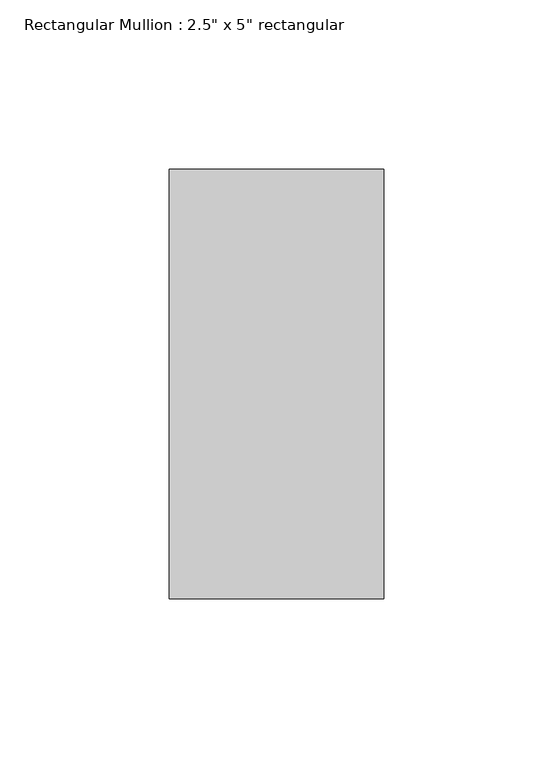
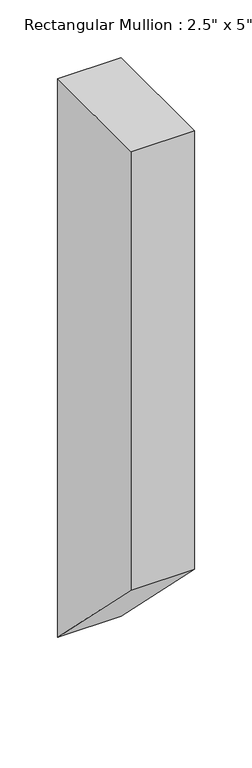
"""IFC4 building model written with IfcOpenShell, lengths in millimetres: member geometry."""

from ifc_helpers import new_model, si_unit, frame, origin, place, context, project, spatial, polyline, outline, extrude, source, transform, mapped, element, save


def member_55448455(model_context):
    return source(origin(), model_context, "Body", "SweptSolid", [
        extrude(outline(polyline([(-63.5, 0.0), (63.5, 0.0), (63.5, -590.55), (-63.5, -463.55), (-63.5, 0.0)])), frame((-63.5, 0.0, 0.0), z_axis=(1.0, 0.0, 0.0), x_axis=(0.0, 1.0, 0.0)), (0.0, 0.0, 1.0), 63.5),
    ])


if __name__ == "__main__":
    model = new_model("IFC4")
    model_context = context("Model", 3, world=origin())
    ifc_project = project(units=[si_unit("LENGTHUNIT", "METRE", prefix="MILLI")], contexts=[model_context])
    site = spatial("IfcSite", under=ifc_project)
    building = spatial("IfcBuilding", under=site)
    placement = place(None, origin())
    member_shape = member_55448455(model_context)
    element("IfcMember", 1, ObjectType="Rectangular Mullion : 2.5\" x 5\" rectangular", at=placement, inside=building, context=model_context, shape_type="MappedRepresentation", body=[
        mapped(member_shape, transform((0.0, 0.0, 0.0), x_axis=(1.0, 0.0, 0.0), y_axis=(0.0, 1.0, 0.0), z_axis=(0.0, 0.0, 1.0))),
    ])
    save(model, "model.ifc")
